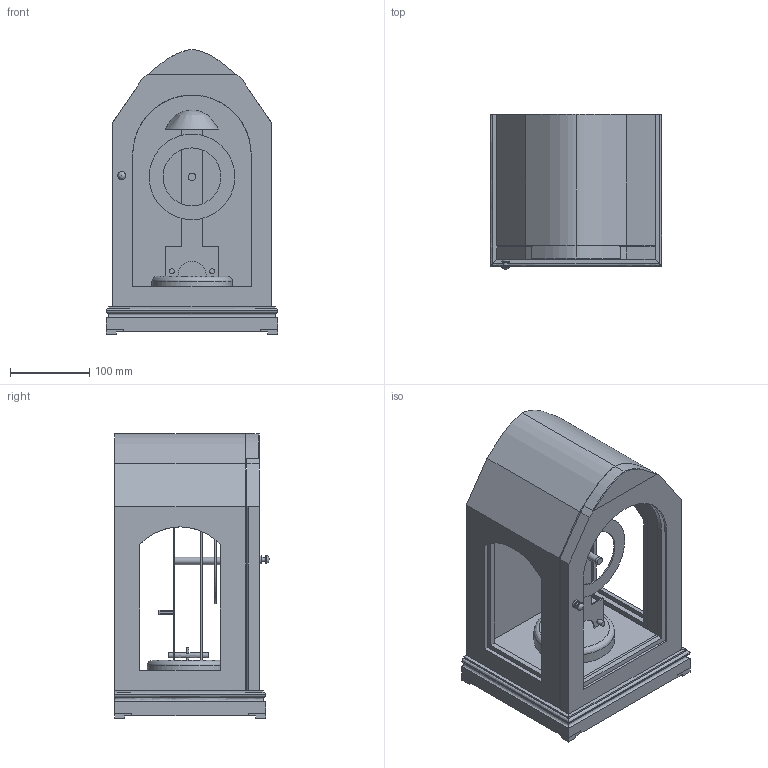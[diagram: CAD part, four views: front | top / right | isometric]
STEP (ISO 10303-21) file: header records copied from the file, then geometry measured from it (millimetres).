
FILE_DESCRIPTION ((), '1');
FILE_NAME ('/Volumes/Data/Drawings/Moi3D/mantel clock/mantel clock exploded 20210613.stp', '2021-06-15T10:50:59', ('Unknown'), ('Unknown'), 'HarmonyWare STEP v2.1.4', 'HarmonyWare Translators', '');
FILE_SCHEMA (('CONFIG_CONTROL_DESIGN'));
Length unit declared in the file: inch
Products named in the file (41): side glass retainer strip; side slope; top horizontal; top; back; bottom top layer cedar; bottom middle layer plywood; bottom front strip; bottom lowest layer plywood; clock; rotate rod; flange bolt; circular platform; flange bolt nut; lever arm; rod horizontal guide; door glass retained strip; sides; hinge side half; hinge door side; base sides; base back; base front; front top arc; door magnet; door screw for magnet catch; feet inserts; door knob; door
Assembly tree (40 placements, depth 2):
  (unnamed)
    side glass retainer strip
    side slope
    side glass retainer strip
    side slope
    top horizontal
    top
    back
    bottom top layer cedar
    bottom middle layer plywood
    bottom front strip
    bottom lowest layer plywood
    clock
    rotate rod
    clock
    flange bolt
    circular platform
    flange bolt nut
    lever arm
    flange bolt nut
    rod horizontal guide
    door glass retained strip
    sides
    hinge side half
    hinge door side
    hinge door side
    hinge side half
    base sides
    base back
    base front
    base sides
    front top arc
    door magnet
    door screw for magnet catch
    sides
    feet inserts
    feet inserts
    feet inserts
    feet inserts
    door knob
    door
Bounding box: 215.9 x 195.26 x 358.77 mm (x, y, z)
Volume: 4329191.4 mm3; surface area: 838429.2 mm2
Topology: 40 solids, 40 shells, 561 faces, 1360 edges, 912 vertices
Faces by surface type: bspline 561
Entity records: 25544 total; most frequent: CARTESIAN_POINT 11382, ORIENTED_EDGE 2706, EDGE_CURVE 1353, B_SPLINE_CURVE_WITH_KNOTS 1079, VERTEX_POINT 908, EDGE_LOOP 667, FACE_OUTER_BOUND 561, ADVANCED_FACE 561
